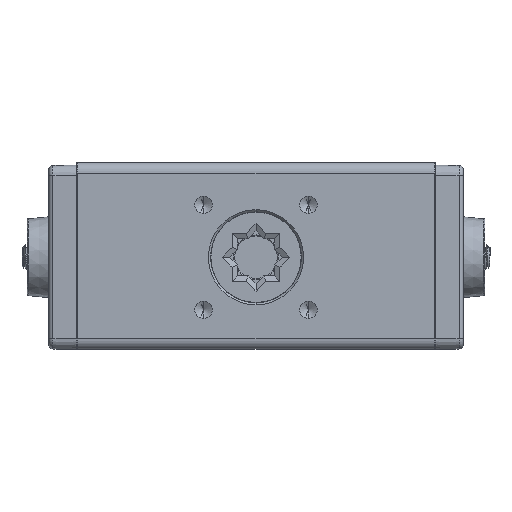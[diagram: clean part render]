
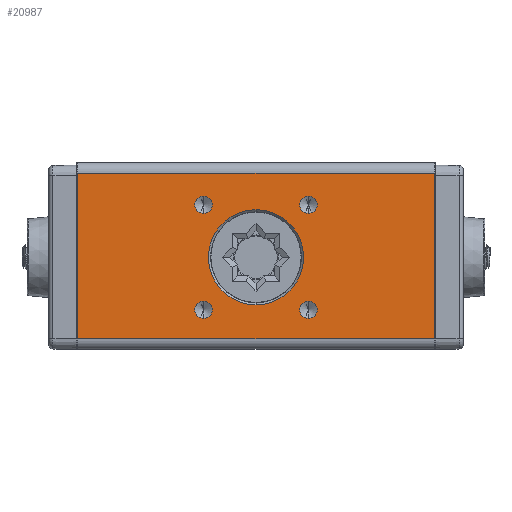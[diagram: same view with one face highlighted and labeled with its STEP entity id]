
A CAD part, front view. The second image highlights one B-rep face of the part: STEP entity #20987.
In plain terms, the highlighted planar face has unit normal (0, -1, 0).
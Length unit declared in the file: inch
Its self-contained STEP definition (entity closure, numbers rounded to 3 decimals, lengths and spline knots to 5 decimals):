
#224 = CARTESIAN_POINT ( 'NONE',  ( -0.5, 30.75843, -0.58268 ) ) ;
#258 = DIRECTION ( 'NONE',  ( 0., 0., -1. ) ) ;
#1120 = FACE_BOUND ( 'NONE', #23756, .T. ) ;
#1380 = CARTESIAN_POINT ( 'NONE',  ( 0., 30.75843, -0.453 ) ) ;
#1393 = EDGE_CURVE ( 'NONE', #14448, #29532, #28056, .T. ) ;
#1486 = EDGE_CURVE ( 'NONE', #23529, #4190, #4308, .T. ) ;
#1527 = DIRECTION ( 'NONE',  ( 0., 0., -1. ) ) ;
#2091 = VECTOR ( 'NONE', #8902, 39.37008 ) ;
#2236 = CARTESIAN_POINT ( 'NONE',  ( 0.5, 30.75843, -0.41732 ) ) ;
#2528 = CARTESIAN_POINT ( 'NONE',  ( 0.5, 30.75843, 0.58268 ) ) ;
#2580 = EDGE_CURVE ( 'NONE', #12799, #8457, #20965, .T. ) ;
#3114 = ORIENTED_EDGE ( 'NONE', *, *, #23692, .F. ) ;
#3137 = AXIS2_PLACEMENT_3D ( 'NONE', #11329, #15771, #29737 ) ;
#3309 = VERTEX_POINT ( 'NONE', #2236 ) ;
#3431 = FACE_BOUND ( 'NONE', #26909, .T. ) ;
#3575 = VERTEX_POINT ( 'NONE', #27160 ) ;
#4190 = VERTEX_POINT ( 'NONE', #14075 ) ;
#4208 = CARTESIAN_POINT ( 'NONE',  ( -0.5, 30.75843, 0.5 ) ) ;
#4308 = LINE ( 'NONE', #8593, #2091 ) ;
#4338 = CARTESIAN_POINT ( 'NONE',  ( -1.7, 30.75843, 0.802 ) ) ;
#4418 = EDGE_LOOP ( 'NONE', ( #17537, #28770 ) ) ;
#4420 = CARTESIAN_POINT ( 'NONE',  ( -0.5, 30.75843, 0.41732 ) ) ;
#4546 = LINE ( 'NONE', #11438, #13296 ) ;
#4880 = ORIENTED_EDGE ( 'NONE', *, *, #26252, .T. ) ;
#5095 = CIRCLE ( 'NONE', #9003, 0.08268 ) ;
#5171 = CARTESIAN_POINT ( 'NONE',  ( -0.5, 30.75843, -0.5 ) ) ;
#5580 = FACE_BOUND ( 'NONE', #4418, .T. ) ;
#5583 = CIRCLE ( 'NONE', #3137, 0.453 ) ;
#5599 = AXIS2_PLACEMENT_3D ( 'NONE', #4208, #27819, #13542 ) ;
#5760 = CIRCLE ( 'NONE', #9166, 0.08268 ) ;
#5891 = ORIENTED_EDGE ( 'NONE', *, *, #2580, .T. ) ;
#6039 = FACE_OUTER_BOUND ( 'NONE', #7702, .T. ) ;
#6048 = AXIS2_PLACEMENT_3D ( 'NONE', #24590, #28880, #21675 ) ;
#6261 = DIRECTION ( 'NONE',  ( 0., 0., -1. ) ) ;
#7687 = DIRECTION ( 'NONE',  ( 0., -1., 0. ) ) ;
#7702 = EDGE_LOOP ( 'NONE', ( #22161, #9850, #7872, #4880 ) ) ;
#7771 = VERTEX_POINT ( 'NONE', #21177 ) ;
#7872 = ORIENTED_EDGE ( 'NONE', *, *, #25205, .T. ) ;
#8403 = EDGE_CURVE ( 'NONE', #26979, #14296, #28455, .T. ) ;
#8457 = VERTEX_POINT ( 'NONE', #22656 ) ;
#8484 = AXIS2_PLACEMENT_3D ( 'NONE', #15066, #24439, #22118 ) ;
#8593 = CARTESIAN_POINT ( 'NONE',  ( 1.7, 30.75843, 0.802 ) ) ;
#8902 = DIRECTION ( 'NONE',  ( 0., 0., 1. ) ) ;
#8958 = LINE ( 'NONE', #29809, #15984 ) ;
#9003 = AXIS2_PLACEMENT_3D ( 'NONE', #27439, #11024, #1527 ) ;
#9166 = AXIS2_PLACEMENT_3D ( 'NONE', #27255, #29707, #6261 ) ;
#9372 = AXIS2_PLACEMENT_3D ( 'NONE', #17627, #7687, #17029 ) ;
#9850 = ORIENTED_EDGE ( 'NONE', *, *, #1486, .T. ) ;
#10029 = DIRECTION ( 'NONE',  ( 0., 1., 0. ) ) ;
#10579 = CARTESIAN_POINT ( 'NONE',  ( 0., 30.75843, 0. ) ) ;
#11024 = DIRECTION ( 'NONE',  ( 0., -1., 0. ) ) ;
#11329 = CARTESIAN_POINT ( 'NONE',  ( 0., 30.75843, 0. ) ) ;
#11365 = ORIENTED_EDGE ( 'NONE', *, *, #12033, .F. ) ;
#11438 = CARTESIAN_POINT ( 'NONE',  ( 1.71, 30.75843, -0.778 ) ) ;
#12033 = EDGE_CURVE ( 'NONE', #29532, #14448, #27112, .T. ) ;
#12551 = ORIENTED_EDGE ( 'NONE', *, *, #26156, .F. ) ;
#12799 = VERTEX_POINT ( 'NONE', #1380 ) ;
#12918 = FACE_BOUND ( 'NONE', #18899, .T. ) ;
#13072 = VECTOR ( 'NONE', #258, 39.37008 ) ;
#13296 = VECTOR ( 'NONE', #20217, 39.37008 ) ;
#13379 = CARTESIAN_POINT ( 'NONE',  ( -0.5, 30.75843, 0.58268 ) ) ;
#13542 = DIRECTION ( 'NONE',  ( 0., 0., -1. ) ) ;
#14075 = CARTESIAN_POINT ( 'NONE',  ( 1.7, 30.75843, 0.802 ) ) ;
#14296 = VERTEX_POINT ( 'NONE', #15073 ) ;
#14448 = VERTEX_POINT ( 'NONE', #13379 ) ;
#14514 = DIRECTION ( 'NONE',  ( 0., -1., 0. ) ) ;
#14830 = DIRECTION ( 'NONE',  ( 0., -1., 0. ) ) ;
#15066 = CARTESIAN_POINT ( 'NONE',  ( 0.5, 30.75843, 0.5 ) ) ;
#15073 = CARTESIAN_POINT ( 'NONE',  ( 0.5, 30.75843, 0.41732 ) ) ;
#15415 = AXIS2_PLACEMENT_3D ( 'NONE', #28946, #14830, #17431 ) ;
#15771 = DIRECTION ( 'NONE',  ( 0., 1., 0. ) ) ;
#15984 = VECTOR ( 'NONE', #25226, 39.37008 ) ;
#16340 = CARTESIAN_POINT ( 'NONE',  ( -1.7, 30.75843, 0.802 ) ) ;
#16537 = AXIS2_PLACEMENT_3D ( 'NONE', #5171, #14514, #23870 ) ;
#17029 = DIRECTION ( 'NONE',  ( 0., 0., -1. ) ) ;
#17226 = EDGE_CURVE ( 'NONE', #23529, #7771, #4546, .T. ) ;
#17278 = DIRECTION ( 'NONE',  ( 0., -1., 0. ) ) ;
#17431 = DIRECTION ( 'NONE',  ( 0., 0., -1. ) ) ;
#17537 = ORIENTED_EDGE ( 'NONE', *, *, #21114, .F. ) ;
#17627 = CARTESIAN_POINT ( 'NONE',  ( -0.5, 30.75843, 0.5 ) ) ;
#17998 = CIRCLE ( 'NONE', #16537, 0.08268 ) ;
#18899 = EDGE_LOOP ( 'NONE', ( #11365, #25926 ) ) ;
#19344 = EDGE_LOOP ( 'NONE', ( #3114, #24320 ) ) ;
#19621 = ORIENTED_EDGE ( 'NONE', *, *, #21942, .T. ) ;
#19731 = CIRCLE ( 'NONE', #8484, 0.08268 ) ;
#19976 = PLANE ( 'NONE',  #6048 ) ;
#20217 = DIRECTION ( 'NONE',  ( -1., 0., 0. ) ) ;
#20965 = CIRCLE ( 'NONE', #28315, 0.453 ) ;
#20987 = ADVANCED_FACE ( 'NONE', ( #12918, #5580, #28736, #1120, #3431, #6039 ), #19976, .F. ) ;
#21114 = EDGE_CURVE ( 'NONE', #14296, #26979, #19731, .T. ) ;
#21177 = CARTESIAN_POINT ( 'NONE',  ( -1.7, 30.75843, -0.778 ) ) ;
#21675 = DIRECTION ( 'NONE',  ( 0., 0., 1. ) ) ;
#21827 = EDGE_CURVE ( 'NONE', #3309, #27907, #5095, .T. ) ;
#21942 = EDGE_CURVE ( 'NONE', #8457, #12799, #5583, .T. ) ;
#22118 = DIRECTION ( 'NONE',  ( 0., 0., -1. ) ) ;
#22161 = ORIENTED_EDGE ( 'NONE', *, *, #17226, .F. ) ;
#22656 = CARTESIAN_POINT ( 'NONE',  ( 0., 30.75843, 0.453 ) ) ;
#23529 = VERTEX_POINT ( 'NONE', #28366 ) ;
#23557 = LINE ( 'NONE', #16340, #13072 ) ;
#23692 = EDGE_CURVE ( 'NONE', #27907, #3309, #24244, .T. ) ;
#23756 = EDGE_LOOP ( 'NONE', ( #28418, #12551 ) ) ;
#23870 = DIRECTION ( 'NONE',  ( 0., 0., -1. ) ) ;
#23983 = DIRECTION ( 'NONE',  ( 0., 0., 1. ) ) ;
#24244 = CIRCLE ( 'NONE', #15415, 0.08268 ) ;
#24320 = ORIENTED_EDGE ( 'NONE', *, *, #21827, .F. ) ;
#24350 = CARTESIAN_POINT ( 'NONE',  ( 0.5, 30.75843, 0.5 ) ) ;
#24439 = DIRECTION ( 'NONE',  ( 0., -1., 0. ) ) ;
#24590 = CARTESIAN_POINT ( 'NONE',  ( 1.71, 30.75843, 0.802 ) ) ;
#25205 = EDGE_CURVE ( 'NONE', #4190, #27266, #8958, .T. ) ;
#25226 = DIRECTION ( 'NONE',  ( -1., 0., 0. ) ) ;
#25926 = ORIENTED_EDGE ( 'NONE', *, *, #1393, .F. ) ;
#26156 = EDGE_CURVE ( 'NONE', #3575, #26941, #5760, .T. ) ;
#26252 = EDGE_CURVE ( 'NONE', #27266, #7771, #23557, .T. ) ;
#26501 = AXIS2_PLACEMENT_3D ( 'NONE', #24350, #17278, #26646 ) ;
#26646 = DIRECTION ( 'NONE',  ( 0., 0., -1. ) ) ;
#26909 = EDGE_LOOP ( 'NONE', ( #5891, #19621 ) ) ;
#26941 = VERTEX_POINT ( 'NONE', #224 ) ;
#26979 = VERTEX_POINT ( 'NONE', #2528 ) ;
#27112 = CIRCLE ( 'NONE', #5599, 0.08268 ) ;
#27160 = CARTESIAN_POINT ( 'NONE',  ( -0.5, 30.75843, -0.41732 ) ) ;
#27255 = CARTESIAN_POINT ( 'NONE',  ( -0.5, 30.75843, -0.5 ) ) ;
#27266 = VERTEX_POINT ( 'NONE', #4338 ) ;
#27439 = CARTESIAN_POINT ( 'NONE',  ( 0.5, 30.75843, -0.5 ) ) ;
#27819 = DIRECTION ( 'NONE',  ( 0., -1., 0. ) ) ;
#27907 = VERTEX_POINT ( 'NONE', #28212 ) ;
#28056 = CIRCLE ( 'NONE', #9372, 0.08268 ) ;
#28212 = CARTESIAN_POINT ( 'NONE',  ( 0.5, 30.75843, -0.58268 ) ) ;
#28315 = AXIS2_PLACEMENT_3D ( 'NONE', #10579, #10029, #23983 ) ;
#28366 = CARTESIAN_POINT ( 'NONE',  ( 1.7, 30.75843, -0.778 ) ) ;
#28418 = ORIENTED_EDGE ( 'NONE', *, *, #28506, .F. ) ;
#28455 = CIRCLE ( 'NONE', #26501, 0.08268 ) ;
#28506 = EDGE_CURVE ( 'NONE', #26941, #3575, #17998, .T. ) ;
#28736 = FACE_BOUND ( 'NONE', #19344, .T. ) ;
#28770 = ORIENTED_EDGE ( 'NONE', *, *, #8403, .F. ) ;
#28880 = DIRECTION ( 'NONE',  ( 0., 1., 0. ) ) ;
#28946 = CARTESIAN_POINT ( 'NONE',  ( 0.5, 30.75843, -0.5 ) ) ;
#29532 = VERTEX_POINT ( 'NONE', #4420 ) ;
#29707 = DIRECTION ( 'NONE',  ( 0., -1., 0. ) ) ;
#29737 = DIRECTION ( 'NONE',  ( 0., 0., 1. ) ) ;
#29809 = CARTESIAN_POINT ( 'NONE',  ( 1.71, 30.75843, 0.802 ) ) ;
